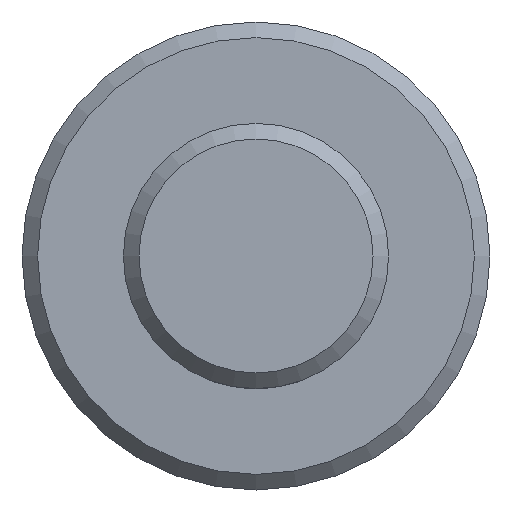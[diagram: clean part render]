
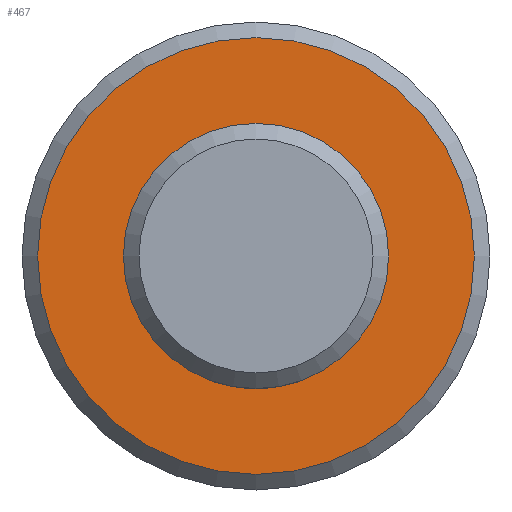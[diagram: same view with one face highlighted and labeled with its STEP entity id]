
A CAD part, left-side view. The second image highlights one B-rep face of the part: STEP entity #467.
In plain terms, the highlighted planar face has unit normal (-1, 0, 0).
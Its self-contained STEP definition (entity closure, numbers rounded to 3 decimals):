
#27=FACE_BOUND('',#108,.T.);
#38=PLANE('',#544);
#75=FACE_OUTER_BOUND('',#107,.T.);
#107=EDGE_LOOP('',(#418));
#108=EDGE_LOOP('',(#419));
#192=CIRCLE('',#543,14.);
#193=CIRCLE('',#545,8.5);
#237=VERTEX_POINT('',#891);
#238=VERTEX_POINT('',#895);
#299=EDGE_CURVE('',#237,#237,#192,.T.);
#301=EDGE_CURVE('',#238,#238,#193,.T.);
#418=ORIENTED_EDGE('',*,*,#299,.F.);
#419=ORIENTED_EDGE('',*,*,#301,.F.);
#467=ADVANCED_FACE('',(#75,#27),#38,.T.);
#543=AXIS2_PLACEMENT_3D('',#892,#676,#677);
#544=AXIS2_PLACEMENT_3D('',#894,#679,#680);
#545=AXIS2_PLACEMENT_3D('',#896,#681,#682);
#676=DIRECTION('center_axis',(1.,0.,0.));
#677=DIRECTION('ref_axis',(0.,1.,0.));
#679=DIRECTION('center_axis',(-1.,0.,0.));
#680=DIRECTION('ref_axis',(0.,0.,1.));
#681=DIRECTION('center_axis',(-1.,0.,0.));
#682=DIRECTION('ref_axis',(0.,-1.,0.));
#891=CARTESIAN_POINT('',(32.497,-71.5,0.));
#892=CARTESIAN_POINT('Origin',(32.497,-57.5,0.));
#894=CARTESIAN_POINT('Origin',(32.497,-69.25,0.));
#895=CARTESIAN_POINT('',(32.497,-49.,0.));
#896=CARTESIAN_POINT('Origin',(32.497,-57.5,0.));
